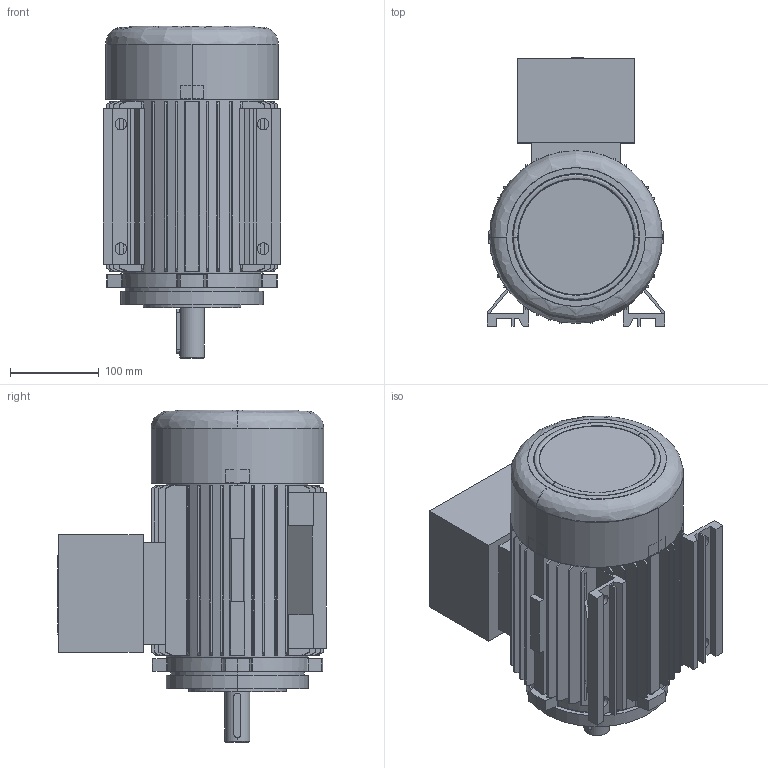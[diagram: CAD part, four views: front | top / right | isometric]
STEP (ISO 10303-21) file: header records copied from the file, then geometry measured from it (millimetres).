
FILE_DESCRIPTION (( 'STEP AP214' ), '1' );
FILE_NAME ('20.18393-F 5AT 100 B34_F130 Exd STANDK.STEP', '2018-11-15T08:55:49', ( '' ), ( '' ), 'SwSTEP 2.0', 'SolidWorks 2018', '' );
FILE_SCHEMA (( 'AUTOMOTIVE_DESIGN' ));
Length unit declared in the file: millimetre
Products named in the file (1): 20.18393-F 5AT 100 B34_F130 Exd STANDK
Bounding box: 200 x 302 x 373.3 mm (x, y, z)
Volume: 4974863.9 mm3; surface area: 900240.4 mm2
Topology: 3 solids, 3 shells, 743 faces, 1933 edges, 1254 vertices
Faces by surface type: plane 417, cylinder 165, cone 143, bspline 18
Entity records: 30953 total; most frequent: CARTESIAN_POINT 6467, ORIENTED_EDGE 3818, DIRECTION 3727, EDGE_CURVE 1909, AXIS2_PLACEMENT_3D 1334, VERTEX_POINT 1254, VECTOR 1059, LINE 1059
